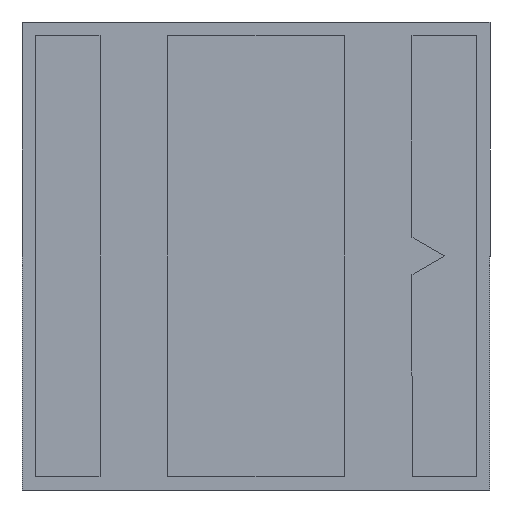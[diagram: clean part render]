
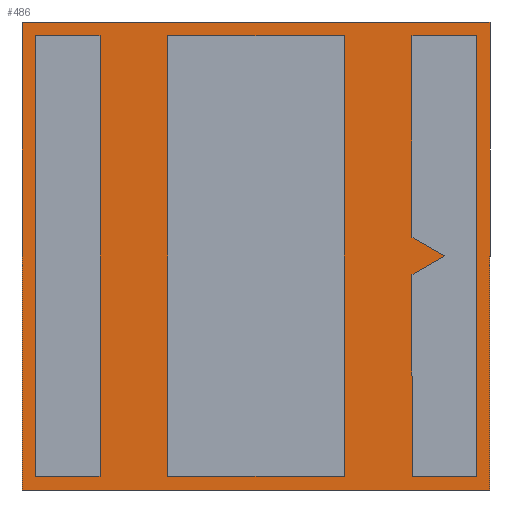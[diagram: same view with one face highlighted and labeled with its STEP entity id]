
A CAD part, front view. The second image highlights one B-rep face of the part: STEP entity #486.
In plain terms, the highlighted planar face has unit normal (0, -1, 0).
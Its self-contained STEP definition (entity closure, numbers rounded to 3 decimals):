
#12 = CARTESIAN_POINT ( 'NONE',  ( 1.725, 0., 1.725 ) ) ;
#15 = VECTOR ( 'NONE', #707, 1000. ) ;
#21 = VERTEX_POINT ( 'NONE', #578 ) ;
#23 = ORIENTED_EDGE ( 'NONE', *, *, #199, .F. ) ;
#38 = EDGE_LOOP ( 'NONE', ( #232, #1009, #40, #558 ) ) ;
#40 = ORIENTED_EDGE ( 'NONE', *, *, #161, .F. ) ;
#51 = DIRECTION ( 'NONE',  ( -1., 0., 0. ) ) ;
#53 = VECTOR ( 'NONE', #133, 1000. ) ;
#56 = VERTEX_POINT ( 'NONE', #793 ) ;
#59 = CARTESIAN_POINT ( 'NONE',  ( 1.625, 0., -1.625 ) ) ;
#62 = DIRECTION ( 'NONE',  ( 0., 0., -1. ) ) ;
#67 = VERTEX_POINT ( 'NONE', #12 ) ;
#70 = ORIENTED_EDGE ( 'NONE', *, *, #140, .F. ) ;
#75 = VECTOR ( 'NONE', #337, 1000. ) ;
#84 = EDGE_CURVE ( 'NONE', #653, #325, #332, .T. ) ;
#94 = PLANE ( 'NONE',  #416 ) ;
#100 = LINE ( 'NONE', #639, #15 ) ;
#117 = CARTESIAN_POINT ( 'NONE',  ( -1.15, 0., 1.625 ) ) ;
#119 = VERTEX_POINT ( 'NONE', #333 ) ;
#124 = CARTESIAN_POINT ( 'NONE',  ( 0.65, 0., 1.625 ) ) ;
#125 = CARTESIAN_POINT ( 'NONE',  ( 1.625, 0., 1.625 ) ) ;
#133 = DIRECTION ( 'NONE',  ( -0.866, 0., -0.5 ) ) ;
#140 = EDGE_CURVE ( 'NONE', #713, #193, #652, .T. ) ;
#142 = CARTESIAN_POINT ( 'NONE',  ( 1.725, 0., -1.725 ) ) ;
#144 = VECTOR ( 'NONE', #711, 1000. ) ;
#155 = CARTESIAN_POINT ( 'NONE',  ( -1.725, 0., -1.725 ) ) ;
#158 = EDGE_CURVE ( 'NONE', #193, #188, #680, .T. ) ;
#160 = EDGE_LOOP ( 'NONE', ( #557, #740, #353, #961 ) ) ;
#161 = EDGE_CURVE ( 'NONE', #630, #384, #763, .T. ) ;
#163 = VECTOR ( 'NONE', #798, 1000. ) ;
#185 = LINE ( 'NONE', #1006, #577 ) ;
#188 = VERTEX_POINT ( 'NONE', #342 ) ;
#193 = VERTEX_POINT ( 'NONE', #117 ) ;
#195 = VECTOR ( 'NONE', #51, 1000. ) ;
#196 = EDGE_CURVE ( 'NONE', #67, #647, #428, .T. ) ;
#199 = EDGE_CURVE ( 'NONE', #325, #119, #698, .T. ) ;
#232 = ORIENTED_EDGE ( 'NONE', *, *, #1010, .F. ) ;
#244 = CARTESIAN_POINT ( 'NONE',  ( 1.625, 0., -1.625 ) ) ;
#255 = CARTESIAN_POINT ( 'NONE',  ( -1.625, 0., -1.625 ) ) ;
#256 = CARTESIAN_POINT ( 'NONE',  ( 1.15, 0., 1.625 ) ) ;
#283 = CARTESIAN_POINT ( 'NONE',  ( 1.625, 0., 1.625 ) ) ;
#285 = CARTESIAN_POINT ( 'NONE',  ( -0.65, 0., -1.625 ) ) ;
#290 = CARTESIAN_POINT ( 'NONE',  ( 1.15, 0., -0.137 ) ) ;
#309 = CARTESIAN_POINT ( 'NONE',  ( 1.387, 0., 0. ) ) ;
#312 = EDGE_CURVE ( 'NONE', #188, #422, #185, .T. ) ;
#316 = LINE ( 'NONE', #124, #195 ) ;
#322 = VECTOR ( 'NONE', #511, 1000. ) ;
#325 = VERTEX_POINT ( 'NONE', #309 ) ;
#327 = ORIENTED_EDGE ( 'NONE', *, *, #877, .F. ) ;
#332 = LINE ( 'NONE', #640, #940 ) ;
#333 = CARTESIAN_POINT ( 'NONE',  ( 1.15, 0., -0.137 ) ) ;
#337 = DIRECTION ( 'NONE',  ( -1., 0., 0. ) ) ;
#340 = EDGE_CURVE ( 'NONE', #56, #434, #891, .T. ) ;
#342 = CARTESIAN_POINT ( 'NONE',  ( -1.625, 0., 1.625 ) ) ;
#345 = LINE ( 'NONE', #59, #456 ) ;
#353 = ORIENTED_EDGE ( 'NONE', *, *, #196, .F. ) ;
#355 = CARTESIAN_POINT ( 'NONE',  ( -1.15, 0., 1.625 ) ) ;
#367 = LINE ( 'NONE', #290, #742 ) ;
#372 = LINE ( 'NONE', #406, #487 ) ;
#373 = VECTOR ( 'NONE', #421, 1000. ) ;
#374 = VERTEX_POINT ( 'NONE', #244 ) ;
#376 = EDGE_LOOP ( 'NONE', ( #875, #70, #585, #755 ) ) ;
#384 = VERTEX_POINT ( 'NONE', #631 ) ;
#406 = CARTESIAN_POINT ( 'NONE',  ( 1.15, 0., -1.625 ) ) ;
#416 = AXIS2_PLACEMENT_3D ( 'NONE', #935, #706, #785 ) ;
#419 = CARTESIAN_POINT ( 'NONE',  ( -1.725, 0., 1.725 ) ) ;
#421 = DIRECTION ( 'NONE',  ( 1., 0., 0. ) ) ;
#422 = VERTEX_POINT ( 'NONE', #255 ) ;
#428 = LINE ( 'NONE', #142, #801 ) ;
#434 = VERTEX_POINT ( 'NONE', #551 ) ;
#435 = DIRECTION ( 'NONE',  ( -1., 0., 0. ) ) ;
#436 = CARTESIAN_POINT ( 'NONE',  ( 1.387, 0., 0. ) ) ;
#440 = CARTESIAN_POINT ( 'NONE',  ( -0.65, 0., 1.625 ) ) ;
#454 = VECTOR ( 'NONE', #744, 1000. ) ;
#456 = VECTOR ( 'NONE', #914, 1000. ) ;
#461 = ORIENTED_EDGE ( 'NONE', *, *, #523, .F. ) ;
#485 = DIRECTION ( 'NONE',  ( 1., 0., 0. ) ) ;
#486 = ADVANCED_FACE ( 'NONE', ( #531, #601, #552, #576 ), #94, .F. ) ;
#487 = VECTOR ( 'NONE', #485, 1000. ) ;
#497 = CARTESIAN_POINT ( 'NONE',  ( -0.65, 0., 1.625 ) ) ;
#498 = EDGE_CURVE ( 'NONE', #422, #713, #100, .T. ) ;
#502 = VECTOR ( 'NONE', #582, 1000. ) ;
#511 = DIRECTION ( 'NONE',  ( 0., 0., 1. ) ) ;
#513 = CARTESIAN_POINT ( 'NONE',  ( 1.725, 0., -1.725 ) ) ;
#523 = EDGE_CURVE ( 'NONE', #817, #653, #691, .T. ) ;
#524 = EDGE_CURVE ( 'NONE', #21, #374, #372, .T. ) ;
#531 = FACE_BOUND ( 'NONE', #376, .T. ) ;
#547 = DIRECTION ( 'NONE',  ( 0., 0., -1. ) ) ;
#551 = CARTESIAN_POINT ( 'NONE',  ( -1.725, 0., 1.725 ) ) ;
#552 = FACE_BOUND ( 'NONE', #38, .T. ) ;
#557 = ORIENTED_EDGE ( 'NONE', *, *, #340, .F. ) ;
#558 = ORIENTED_EDGE ( 'NONE', *, *, #903, .F. ) ;
#560 = VERTEX_POINT ( 'NONE', #497 ) ;
#570 = EDGE_CURVE ( 'NONE', #647, #56, #624, .T. ) ;
#572 = EDGE_CURVE ( 'NONE', #434, #67, #889, .T. ) ;
#576 = FACE_BOUND ( 'NONE', #1018, .T. ) ;
#577 = VECTOR ( 'NONE', #547, 1000. ) ;
#578 = CARTESIAN_POINT ( 'NONE',  ( 1.15, 0., -1.625 ) ) ;
#582 = DIRECTION ( 'NONE',  ( -1., 0., 0. ) ) ;
#585 = ORIENTED_EDGE ( 'NONE', *, *, #498, .F. ) ;
#595 = VERTEX_POINT ( 'NONE', #946 ) ;
#601 = FACE_OUTER_BOUND ( 'NONE', #160, .T. ) ;
#605 = ORIENTED_EDGE ( 'NONE', *, *, #84, .F. ) ;
#624 = LINE ( 'NONE', #795, #75 ) ;
#630 = VERTEX_POINT ( 'NONE', #975 ) ;
#631 = CARTESIAN_POINT ( 'NONE',  ( 0.65, 0., -1.625 ) ) ;
#634 = VERTEX_POINT ( 'NONE', #283 ) ;
#639 = CARTESIAN_POINT ( 'NONE',  ( -1.625, 0., -1.625 ) ) ;
#640 = CARTESIAN_POINT ( 'NONE',  ( 1.15, 0., 0.137 ) ) ;
#641 = EDGE_CURVE ( 'NONE', #634, #817, #1013, .T. ) ;
#647 = VERTEX_POINT ( 'NONE', #513 ) ;
#652 = LINE ( 'NONE', #355, #322 ) ;
#653 = VERTEX_POINT ( 'NONE', #970 ) ;
#660 = CARTESIAN_POINT ( 'NONE',  ( -1.15, 0., 1.625 ) ) ;
#670 = DIRECTION ( 'NONE',  ( 0., 0., -1. ) ) ;
#680 = LINE ( 'NONE', #660, #502 ) ;
#683 = ORIENTED_EDGE ( 'NONE', *, *, #524, .F. ) ;
#691 = LINE ( 'NONE', #256, #144 ) ;
#697 = VECTOR ( 'NONE', #905, 1000. ) ;
#698 = LINE ( 'NONE', #436, #53 ) ;
#706 = DIRECTION ( 'NONE',  ( 0., 1., 0. ) ) ;
#707 = DIRECTION ( 'NONE',  ( 1., 0., 0. ) ) ;
#711 = DIRECTION ( 'NONE',  ( 0., 0., -1. ) ) ;
#713 = VERTEX_POINT ( 'NONE', #810 ) ;
#735 = CARTESIAN_POINT ( 'NONE',  ( 1.15, 0., 1.625 ) ) ;
#740 = ORIENTED_EDGE ( 'NONE', *, *, #570, .F. ) ;
#742 = VECTOR ( 'NONE', #670, 1000. ) ;
#744 = DIRECTION ( 'NONE',  ( 0., 0., -1. ) ) ;
#746 = VECTOR ( 'NONE', #924, 1000. ) ;
#755 = ORIENTED_EDGE ( 'NONE', *, *, #312, .F. ) ;
#762 = LINE ( 'NONE', #440, #454 ) ;
#763 = LINE ( 'NONE', #285, #373 ) ;
#772 = EDGE_CURVE ( 'NONE', #384, #595, #973, .T. ) ;
#774 = VECTOR ( 'NONE', #435, 1000. ) ;
#778 = ORIENTED_EDGE ( 'NONE', *, *, #932, .F. ) ;
#783 = DIRECTION ( 'NONE',  ( 0.866, 0., -0.5 ) ) ;
#785 = DIRECTION ( 'NONE',  ( 0., 0., 1. ) ) ;
#789 = ORIENTED_EDGE ( 'NONE', *, *, #641, .F. ) ;
#793 = CARTESIAN_POINT ( 'NONE',  ( -1.725, 0., -1.725 ) ) ;
#795 = CARTESIAN_POINT ( 'NONE',  ( -1.725, 0., -1.725 ) ) ;
#798 = DIRECTION ( 'NONE',  ( 1., 0., 0. ) ) ;
#801 = VECTOR ( 'NONE', #62, 1000. ) ;
#810 = CARTESIAN_POINT ( 'NONE',  ( -1.15, 0., -1.625 ) ) ;
#817 = VERTEX_POINT ( 'NONE', #735 ) ;
#875 = ORIENTED_EDGE ( 'NONE', *, *, #158, .F. ) ;
#877 = EDGE_CURVE ( 'NONE', #374, #634, #345, .T. ) ;
#889 = LINE ( 'NONE', #419, #163 ) ;
#891 = LINE ( 'NONE', #155, #746 ) ;
#902 = CARTESIAN_POINT ( 'NONE',  ( 0.65, 0., 1.625 ) ) ;
#903 = EDGE_CURVE ( 'NONE', #560, #630, #762, .T. ) ;
#905 = DIRECTION ( 'NONE',  ( 0., 0., 1. ) ) ;
#914 = DIRECTION ( 'NONE',  ( 0., 0., 1. ) ) ;
#924 = DIRECTION ( 'NONE',  ( 0., 0., 1. ) ) ;
#932 = EDGE_CURVE ( 'NONE', #119, #21, #367, .T. ) ;
#935 = CARTESIAN_POINT ( 'NONE',  ( 0., 0., 0. ) ) ;
#940 = VECTOR ( 'NONE', #783, 1000. ) ;
#946 = CARTESIAN_POINT ( 'NONE',  ( 0.65, 0., 1.625 ) ) ;
#961 = ORIENTED_EDGE ( 'NONE', *, *, #572, .F. ) ;
#970 = CARTESIAN_POINT ( 'NONE',  ( 1.15, 0., 0.137 ) ) ;
#973 = LINE ( 'NONE', #902, #697 ) ;
#975 = CARTESIAN_POINT ( 'NONE',  ( -0.65, 0., -1.625 ) ) ;
#1006 = CARTESIAN_POINT ( 'NONE',  ( -1.625, 0., 1.625 ) ) ;
#1009 = ORIENTED_EDGE ( 'NONE', *, *, #772, .F. ) ;
#1010 = EDGE_CURVE ( 'NONE', #595, #560, #316, .T. ) ;
#1013 = LINE ( 'NONE', #125, #774 ) ;
#1018 = EDGE_LOOP ( 'NONE', ( #683, #778, #23, #605, #461, #789, #327 ) ) ;
